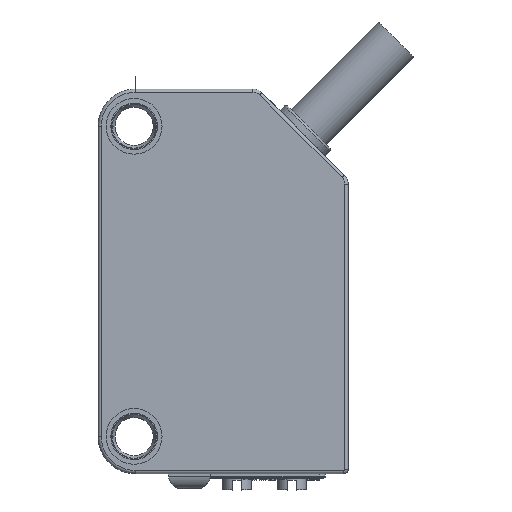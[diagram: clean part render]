
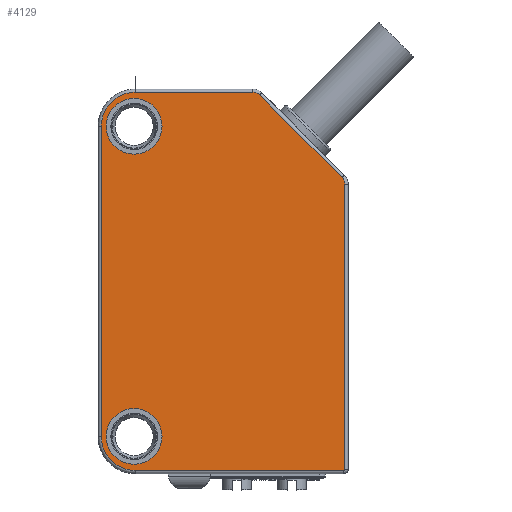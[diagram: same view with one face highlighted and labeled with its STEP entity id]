
A CAD part, top view. The second image highlights one B-rep face of the part: STEP entity #4129.
In plain terms, the highlighted planar face has unit normal (0, 0, 1).
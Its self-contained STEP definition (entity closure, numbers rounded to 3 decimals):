
#888=DIRECTION('',(0.,-1.,0.));
#889=VECTOR('',#888,22.986);
#890=CARTESIAN_POINT('',(9.825,2.861,0.25));
#891=LINE('',#890,#889);
#911=DIRECTION('',(-1.,0.,0.));
#912=VECTOR('',#911,16.8);
#913=CARTESIAN_POINT('',(9.725,-20.225,0.25));
#914=LINE('',#913,#912);
#934=DIRECTION('',(0.,1.,0.));
#935=VECTOR('',#934,25.);
#936=CARTESIAN_POINT('',(-9.825,-17.475,
0.25));
#937=LINE('',#936,#935);
#957=DIRECTION('',(1.,0.,0.));
#958=VECTOR('',#957,9.486);
#959=CARTESIAN_POINT('',(-7.075,10.275,0.25));
#960=LINE('',#959,#958);
#985=CARTESIAN_POINT('',(9.725,-20.125,0.25));
#986=DIRECTION('',(0.,0.,1.));
#987=DIRECTION('',(0.,-1.,0.));
#988=AXIS2_PLACEMENT_3D('',#985,#986,#987);
#990=CARTESIAN_POINT('',(-7.075,-17.475,
0.25));
#991=DIRECTION('',(0.,0.,1.));
#992=DIRECTION('',(-1.,0.,0.));
#993=AXIS2_PLACEMENT_3D('',#990,#991,#992);
#995=CARTESIAN_POINT('',(-7.075,7.525,0.25));
#996=DIRECTION('',(0.,0.,1.));
#997=DIRECTION('',(0.,1.,0.));
#998=AXIS2_PLACEMENT_3D('',#995,#996,#997);
#1000=CARTESIAN_POINT('',(2.411,9.525,0.25));
#1001=DIRECTION('',(0.,0.,1.));
#1002=DIRECTION('',(0.707,0.707,0.));
#1003=AXIS2_PLACEMENT_3D('',#1000,#1001,#1002);
#1005=DIRECTION('',(-0.707,0.707,0.));
#1006=VECTOR('',#1005,9.425);
#1007=CARTESIAN_POINT('',(9.605,3.391,0.25));
#1008=LINE('',#1007,#1006);
#1009=CARTESIAN_POINT('',(9.075,2.861,0.25));
#1010=DIRECTION('',(0.,0.,1.));
#1011=DIRECTION('',(1.,0.,0.));
#1012=AXIS2_PLACEMENT_3D('',#1009,#1010,#1011);
#1014=CARTESIAN_POINT('',(-7.175,-17.475,
0.25));
#1015=DIRECTION('',(0.,0.,-1.));
#1016=DIRECTION('',(0.,1.,0.));
#1017=AXIS2_PLACEMENT_3D('',#1014,#1015,#1016);
#1019=CARTESIAN_POINT('',(-7.175,-17.475,
0.25));
#1020=DIRECTION('',(0.,0.,-1.));
#1021=DIRECTION('',(0.,-1.,0.));
#1022=AXIS2_PLACEMENT_3D('',#1019,#1020,#1021);
#1024=CARTESIAN_POINT('',(-7.175,7.525,
0.25));
#1025=DIRECTION('',(0.,0.,-1.));
#1026=DIRECTION('',(0.,1.,0.));
#1027=AXIS2_PLACEMENT_3D('',#1024,#1025,#1026);
#1029=CARTESIAN_POINT('',(-7.175,7.525,
0.25));
#1030=DIRECTION('',(0.,0.,-1.));
#1031=DIRECTION('',(0.,-1.,0.));
#1032=AXIS2_PLACEMENT_3D('',#1029,#1030,#1031);
#2860=CARTESIAN_POINT('',(-7.075,-20.225,
0.25));
#2861=VERTEX_POINT('',#2860);
#2862=CARTESIAN_POINT('',(-9.825,-17.475,
0.25));
#2863=VERTEX_POINT('',#2862);
#2864=CARTESIAN_POINT('',(9.725,-20.225,
0.25));
#2865=VERTEX_POINT('',#2864);
#2866=CARTESIAN_POINT('',(-9.825,7.525,
0.25));
#2867=VERTEX_POINT('',#2866);
#2868=CARTESIAN_POINT('',(9.825,-20.125,
0.25));
#2869=VERTEX_POINT('',#2868);
#2870=CARTESIAN_POINT('',(9.825,2.861,0.25));
#2871=VERTEX_POINT('',#2870);
#2928=CARTESIAN_POINT('',(2.941,10.055,0.25));
#2929=VERTEX_POINT('',#2928);
#2930=CARTESIAN_POINT('',(-7.075,10.275,
0.25));
#2931=VERTEX_POINT('',#2930);
#2932=CARTESIAN_POINT('',(2.411,10.275,0.25));
#2933=VERTEX_POINT('',#2932);
#2934=CARTESIAN_POINT('',(-7.175,-19.725,
0.25));
#2936=VERTEX_POINT('',#2934);
#2939=CARTESIAN_POINT('',(-7.175,-15.225,
0.25));
#2941=VERTEX_POINT('',#2939);
#2942=CARTESIAN_POINT('',(-7.175,9.775,
0.25));
#2943=VERTEX_POINT('',#2942);
#2944=CARTESIAN_POINT('',(-7.175,5.275,
0.25));
#2945=VERTEX_POINT('',#2944);
#2946=CARTESIAN_POINT('',(9.605,3.391,0.25));
#2947=VERTEX_POINT('',#2946);
#4100=CARTESIAN_POINT('',(0.975,-4.975,0.25));
#4101=DIRECTION('',(0.,0.,-1.));
#4102=DIRECTION('',(0.,1.,0.));
#4103=AXIS2_PLACEMENT_3D('',#4100,#4101,#4102);
#4104=PLANE('',#4103);
#4105=ORIENTED_EDGE('',*,*,#3954,.T.);
#4106=ORIENTED_EDGE('',*,*,#3981,.F.);
#4107=ORIENTED_EDGE('',*,*,#3995,.T.);
#4108=ORIENTED_EDGE('',*,*,#4009,.F.);
#4109=ORIENTED_EDGE('',*,*,#4023,.T.);
#4110=ORIENTED_EDGE('',*,*,#4037,.F.);
#4111=ORIENTED_EDGE('',*,*,#4051,.T.);
#4112=ORIENTED_EDGE('',*,*,#4065,.F.);
#4113=ORIENTED_EDGE('',*,*,#4080,.F.);
#4114=ORIENTED_EDGE('',*,*,#4093,.F.);
#4115=EDGE_LOOP('',(#4105,#4106,#4107,#4108,#4109,#4110,#4111,#4112,#4113,
#4114));
#4116=FACE_OUTER_BOUND('',#4115,.F.);
#4118=ORIENTED_EDGE('',*,*,#4117,.F.);
#4120=ORIENTED_EDGE('',*,*,#4119,.F.);
#4121=EDGE_LOOP('',(#4118,#4120));
#4122=FACE_BOUND('',#4121,.F.);
#4124=ORIENTED_EDGE('',*,*,#4123,.F.);
#4126=ORIENTED_EDGE('',*,*,#4125,.F.);
#4127=EDGE_LOOP('',(#4124,#4126));
#4128=FACE_BOUND('',#4127,.F.);
#4129=ADVANCED_FACE('',(#4116,#4122,#4128),#4104,.F.);
#989=CIRCLE('',#988,0.1);
#994=CIRCLE('',#993,2.75);
#999=CIRCLE('',#998,2.75);
#1004=CIRCLE('',#1003,0.75);
#1013=CIRCLE('',#1012,0.75);
#1018=CIRCLE('',#1017,2.25);
#1023=CIRCLE('',#1022,2.25);
#1028=CIRCLE('',#1027,2.25);
#1033=CIRCLE('',#1032,2.25);
#3954=EDGE_CURVE('',#2871,#2869,#891,.T.);
#3981=EDGE_CURVE('',#2865,#2869,#989,.T.);
#3995=EDGE_CURVE('',#2865,#2861,#914,.T.);
#4009=EDGE_CURVE('',#2863,#2861,#994,.T.);
#4023=EDGE_CURVE('',#2863,#2867,#937,.T.);
#4037=EDGE_CURVE('',#2931,#2867,#999,.T.);
#4051=EDGE_CURVE('',#2931,#2933,#960,.T.);
#4065=EDGE_CURVE('',#2929,#2933,#1004,.T.);
#4080=EDGE_CURVE('',#2947,#2929,#1008,.T.);
#4093=EDGE_CURVE('',#2871,#2947,#1013,.T.);
#4117=EDGE_CURVE('',#2941,#2936,#1018,.T.);
#4119=EDGE_CURVE('',#2936,#2941,#1023,.T.);
#4123=EDGE_CURVE('',#2943,#2945,#1028,.T.);
#4125=EDGE_CURVE('',#2945,#2943,#1033,.T.);
